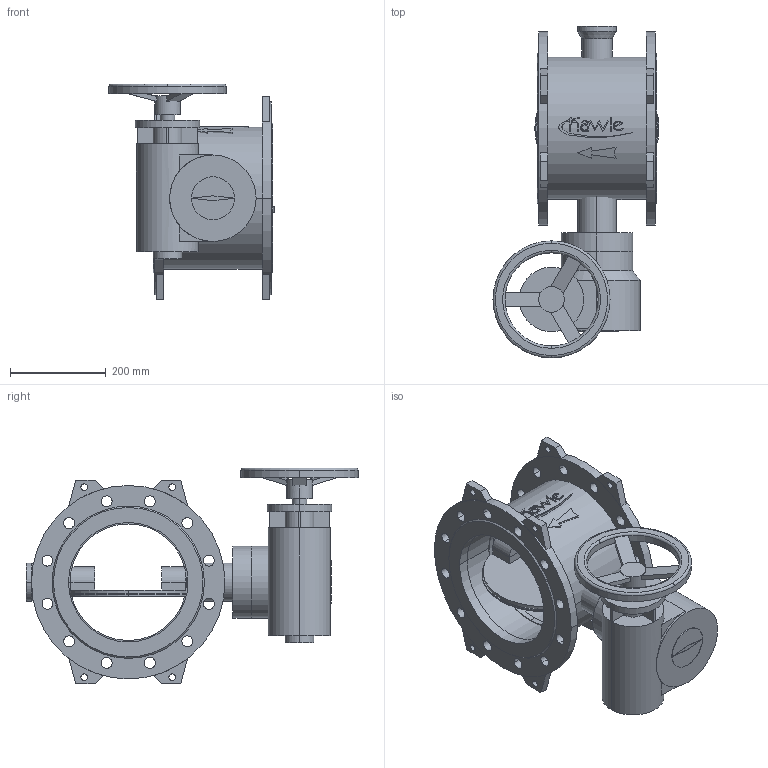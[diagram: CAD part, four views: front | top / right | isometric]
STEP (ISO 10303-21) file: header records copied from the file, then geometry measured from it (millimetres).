
FILE_DESCRIPTION(('STEP AP214'),'1');
FILE_NAME('S:/EK/USER/CAT6/3DHomepage_27-04-2012/neu_08-01-2013/9881K/9881K_PN10_DN250_7800.STP','2013-02-26T15:32:31',(' '),(' '),'Spatial InterOp 3D',' ',' ');
FILE_SCHEMA(('automotive_design'));
Length unit declared in the file: millimetre
Products named in the file (47): 3D-Objekt
Bounding box: 347.5 x 695 x 452 mm (x, y, z)
Volume: 17061002 mm3; surface area: 1680047.3 mm2
Topology: 47 solids, 47 shells, 395 faces, 894 edges, 596 vertices
Faces by surface type: plane 212, cylinder 171, cone 8, torus 4
Entity records: 15731 total; most frequent: DIRECTION 2170, CARTESIAN_POINT 2057, ORIENTED_EDGE 1788, EDGE_CURVE 894, AXIS2_PLACEMENT_3D 835, VERTEX_POINT 596, LINE 500, VECTOR 500
